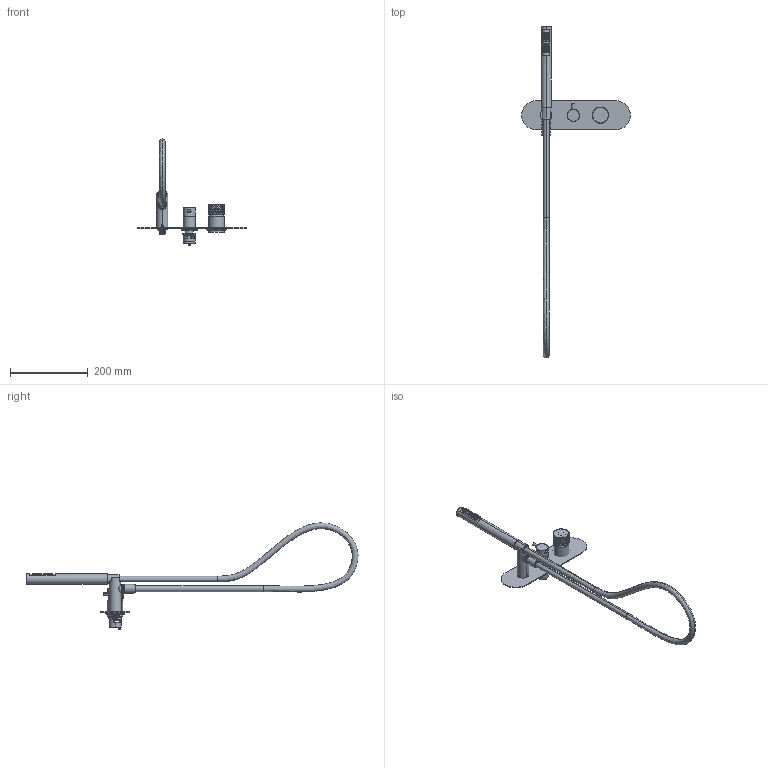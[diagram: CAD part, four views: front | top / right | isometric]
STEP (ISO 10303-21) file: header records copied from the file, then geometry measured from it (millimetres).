
FILE_DESCRIPTION((''),'2;1');
FILE_NAME('12519SV3_SW0001','2023-06-01T13:50:25',('volponeff'),(''),'CREO PARAMETRIC BY PTC INC, 2022014','CREO PARAMETRIC BY PTC INC, 2022014','');
FILE_SCHEMA(('CONFIG_CONTROL_DESIGN'));
Length unit declared in the file: millimetre
Products named in the file (1): 12519SV3_SW0001
Bounding box: 280 x 856.75 x 273.84 mm (x, y, z)
Surface area: 174906.7 mm2 (no closed solid volume)
Topology: 0 solids, 70 shells, 542 faces, 1516 edges, 1023 vertices
Faces by surface type: cylinder 248, bspline 172, plane 45, torus 43, cone 30, sphere 4
Entity records: 28158 total; most frequent: CARTESIAN_POINT 16580, ORIENTED_EDGE 2690, DIRECTION 1654, EDGE_CURVE 1512, VERTEX_POINT 1023, B_SPLINE_CURVE_WITH_KNOTS 923, AXIS2_PLACEMENT_3D 695, EDGE_LOOP 542
